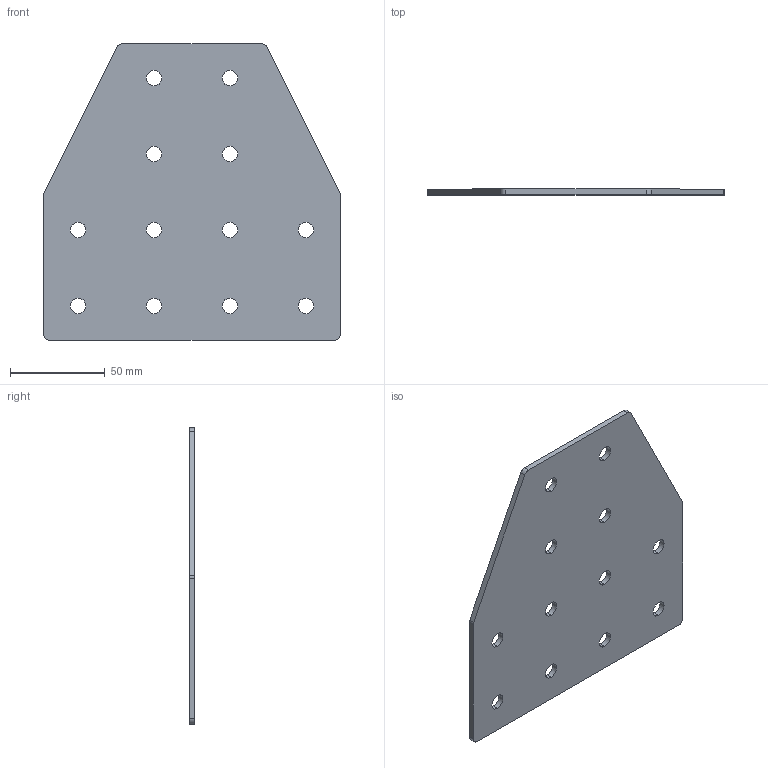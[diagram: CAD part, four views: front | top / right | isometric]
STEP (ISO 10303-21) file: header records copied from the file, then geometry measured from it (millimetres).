
FILE_DESCRIPTION (( 'STEP AP203' ), '1' );
FILE_NAME ('ﾒ-12-ﾓ-40.STEP', '2016-07-22T11:11:33', ( '' ), ( '' ), 'SwSTEP 2.0', 'SolidWorks 2014', '' );
FILE_SCHEMA (( 'CONFIG_CONTROL_DESIGN' ));
Length unit declared in the file: millimetre
Products named in the file (1): ﾒ-12-ﾓ-40
Bounding box: 156 x 3 x 156 mm (x, y, z)
Volume: 61854.7 mm3; surface area: 43845.8 mm2
Topology: 1 solids, 1 shells, 38 faces, 108 edges, 72 vertices
Faces by surface type: cylinder 30, plane 8
Entity records: 1397 total; most frequent: DIRECTION 246, CARTESIAN_POINT 219, ORIENTED_EDGE 216, EDGE_CURVE 108, AXIS2_PLACEMENT_3D 99, VERTEX_POINT 72, EDGE_LOOP 62, CIRCLE 60
